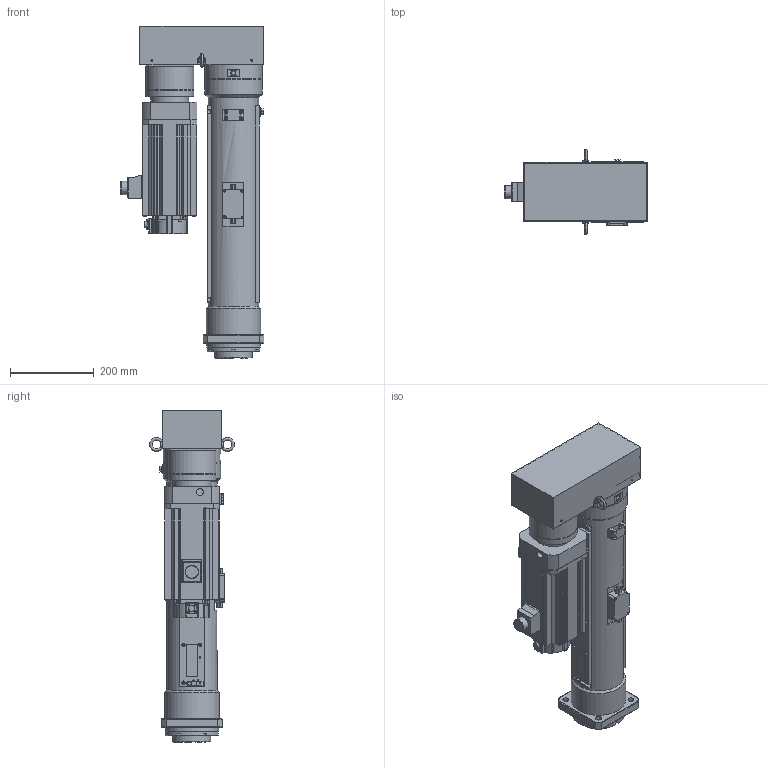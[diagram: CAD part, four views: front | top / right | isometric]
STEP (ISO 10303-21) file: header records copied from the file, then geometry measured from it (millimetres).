
FILE_DESCRIPTION( ('This file contains a STEP AP42 implementation' ,'as created by ZW3D STEP Interface translator.') ,'2;1' );
FILE_NAME( 'OACIS-DC-P060-P070-400-140-A6V200_V20.51.stp' ,'26 422.152854', (''), ('ZWCAD Software Co.'), 'Version 1.0', 'ZW3D to STEP translator', '' );
FILE_SCHEMA(('AUTOMOTIVE_DESIGN { 1 0 10303 214 1 1 1 1 }'));
Length unit declared in the file: millimetre
Products named in the file (1): 0
Bounding box: 342.5 x 202.25 x 791 mm (x, y, z)
Volume: 13170483.5 mm3; surface area: 1947683.3 mm2
Topology: 50 solids, 50 shells, 2027 faces, 5179 edges, 3385 vertices
Faces by surface type: plane 836, cylinder 792, cone 274, torus 97, bspline 24, sphere 4
Full cylindrical faces by diameter (mm): 1.567 x4, 2 x1, 2.459 x1, 3.3 x83, 4.2 x4, 4.3 x26, 4.5 x14, 4.917 x12, 5 x1, 5.3 x4, 5.5 x4, 6.5 x4, 6.647 x6, 6.8 x41, 7 x4, 8 x28, 8.4 x8, 8.5 x4, 9 x26, 9.5 x4, 10 x3, 10.1 x4, 10.106 x1, 10.2 x16, 10.5 x4, 12 x1, 14 x4, 14.8 x1, 15 x8, 16.5 x3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
Entity records: 65818 total; most frequent: CARTESIAN_POINT 12659, DIRECTION 11155, ORIENTED_EDGE 10166, EDGE_CURVE 5083, AXIS2_PLACEMENT_3D 4286, VERTEX_POINT 3382, VECTOR 2583, LINE 2583
